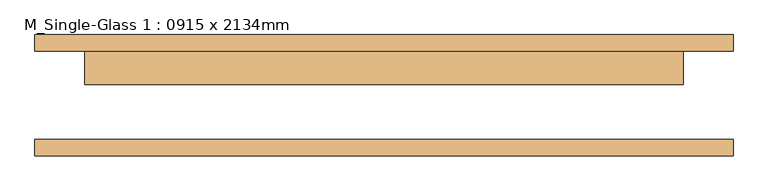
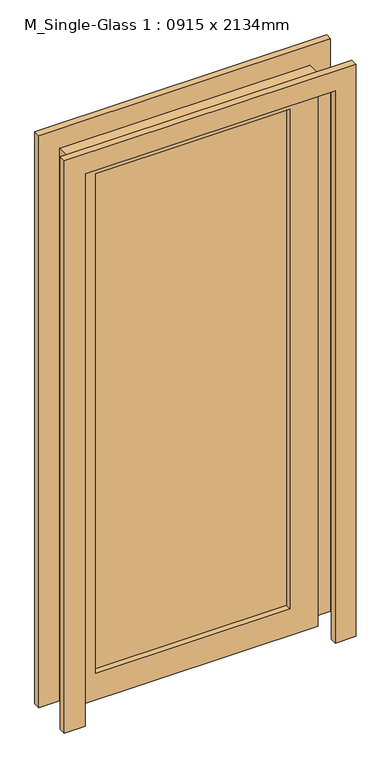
"""IFC4 building model written with IfcOpenShell, lengths in millimetres: door geometry, M_Single-Glass 1 : 0915 x 2134mm."""

from ifc_helpers import new_model, si_unit, frame, origin, place, context, project, spatial, polyline, outline, extrude, source, transform, mapped, element, save


def m_single_glass_1_0915_x_2134mm_7500cbdf(model_context):
    return source(origin(), model_context, "Body", "SweptSolid", [
        extrude(outline(polyline([(2134.0, 457.5), (0.0, 457.5), (0.0, 533.5), (2210.0, 533.5), (2210.0, -533.5), (0.0, -533.5), (0.0, -457.5), (2134.0, -457.5), (2134.0, 457.5)])), frame((0.0, -92.75, 0.0), z_axis=(0.0, 1.0, 0.0), x_axis=(0.0, 0.0, 1.0)), (0.0, 0.0, 1.0), 25.0),
        extrude(outline(polyline([(2134.0, 457.5), (0.0, 457.5), (0.0, 533.5), (2210.0, 533.5), (2210.0, -533.5), (0.0, -533.5), (0.0, -457.5), (2134.0, -457.5), (2134.0, 457.5)])), frame((0.0, 67.75, 0.0), z_axis=(0.0, 1.0, 0.0), x_axis=(0.0, 0.0, 1.0)), (0.0, 0.0, 1.0), 25.0),
        extrude(outline(polyline([(355.5, 39.175), (-355.5, 39.175), (-355.5, 45.525), (355.5, 45.525), (355.5, 39.175)])), frame((0.0, 0.0, 102.0), z_axis=(0.0, 0.0, 1.0), x_axis=(1.0, 0.0, 0.0)), (0.0, 0.0, 1.0), 1930.0),
        extrude(outline(polyline([(2134.0, 457.5), (2134.0, -457.5), (0.0, -457.5), (0.0, 457.5), (2134.0, 457.5)]), holes=[polyline([(2032.0, -355.5), (2032.0, 355.5), (102.0, 355.5), (102.0, -355.5), (2032.0, -355.5)])]), frame((0.0, 16.75, 0.0), z_axis=(0.0, 1.0, 0.0), x_axis=(0.0, 0.0, 1.0)), (0.0, 0.0, 1.0), 51.0),
    ])


if __name__ == "__main__":
    model = new_model("IFC4")
    model_context = context("Model", 3, world=origin())
    ifc_project = project(units=[si_unit("LENGTHUNIT", "METRE", prefix="MILLI")], contexts=[model_context])
    site = spatial("IfcSite", under=ifc_project)
    building = spatial("IfcBuilding", under=site)
    placement = place(None, origin())
    m_single_glass_1_0915_x_2134mm_shape = m_single_glass_1_0915_x_2134mm_7500cbdf(model_context)
    element("IfcDoor", 1, ObjectType="M_Single-Glass 1 : 0915 x 2134mm", at=placement, inside=building, context=model_context, shape_type="MappedRepresentation", body=[
        mapped(m_single_glass_1_0915_x_2134mm_shape, transform((0.0, 0.0, 0.0), x_axis=(1.0, 0.0, 0.0), y_axis=(0.0, 1.0, 0.0), z_axis=(0.0, 0.0, 1.0))),
    ])
    save(model, "model.ifc")
